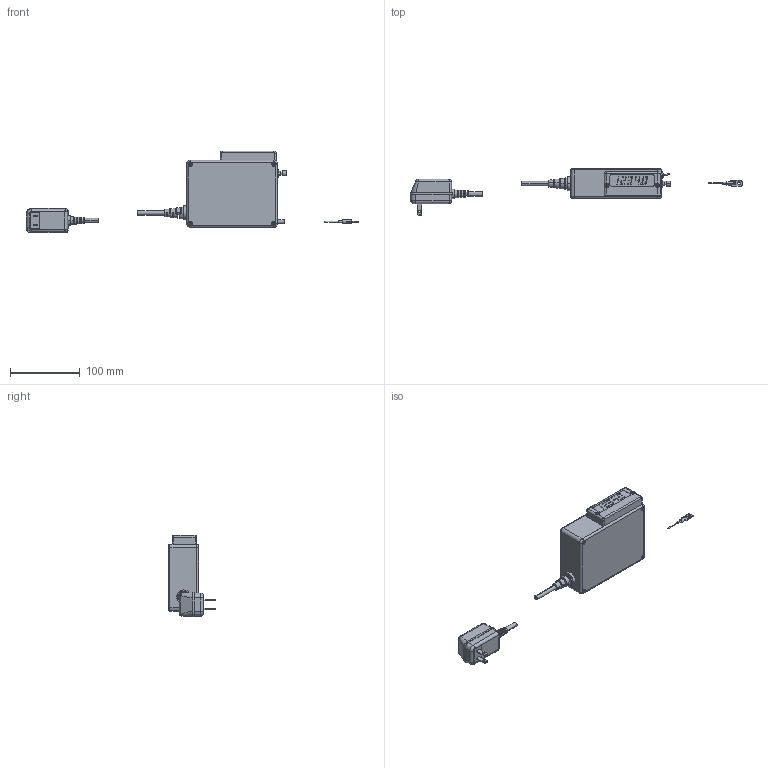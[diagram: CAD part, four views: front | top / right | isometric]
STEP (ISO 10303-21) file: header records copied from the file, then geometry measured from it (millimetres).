
FILE_DESCRIPTION (( 'STEP AP214' ), '1' );
FILE_NAME ('DMR100A_Assem2.STEP', '2024-08-20T01:05:05', ( '' ), ( '' ), 'SwSTEP 2.0', 'SolidWorks 2023', '' );
FILE_SCHEMA (( 'AUTOMOTIVE_DESIGN' ));
Length unit declared in the file: millimetre
Products named in the file (11): DMR100A_Part6; DMR100A_Assem2; ナット_Part3; DMR100A_Part1; DMR100A_Assem1; DMR_ACアダプタ; トルグスイッチ_Part5; DMR100A_Part2; Flat Head SCREW M3 X6 MM; プッシュボタン_Part4; DMR100A_Assem0
Assembly tree (20 placements, depth 4):
  DMR100A_Assem2
    DMR100A_Assem1
      DMR100A_Assem0
        DMR100A_Part1
        トルグスイッチ_Part5
        ナット_Part3  x2
        プッシュボタン_Part4
        Flat Head SCREW M3 X6 MM  x10
        DMR100A_Part2
      DMR100A_Part6
    DMR_ACアダプタ
Bounding box: 475.66 x 67.16 x 116.92 mm (x, y, z)
Volume: 640652.9 mm3; surface area: 89614.5 mm2
Topology: 18 solids, 18 shells, 798 faces, 2129 edges, 1422 vertices
Faces by surface type: plane 437, cylinder 207, cone 78, bspline 58, torus 16, sphere 2
Entity records: 20072 total; most frequent: CARTESIAN_POINT 4932, ORIENTED_EDGE 3100, DIRECTION 3049, EDGE_CURVE 1550, AXIS2_PLACEMENT_3D 1036, VERTEX_POINT 1016, VECTOR 977, LINE 977
